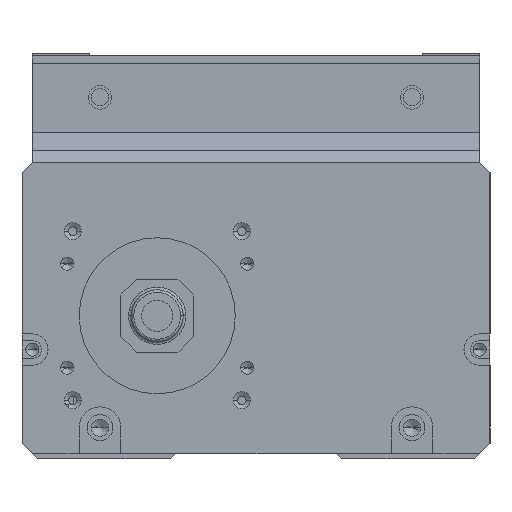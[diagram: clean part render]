
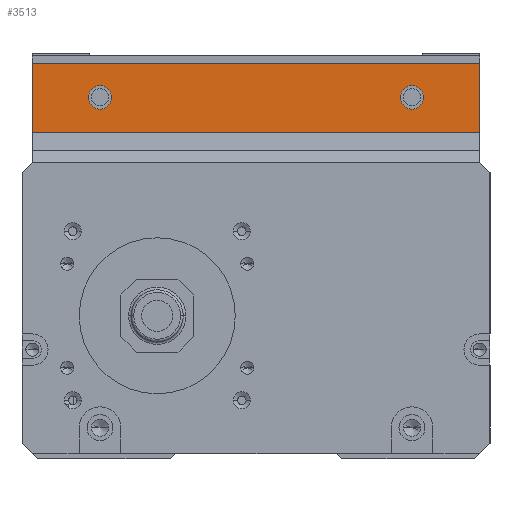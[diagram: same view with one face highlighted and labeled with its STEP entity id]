
A CAD part, front view. The second image highlights one B-rep face of the part: STEP entity #3513.
In plain terms, the highlighted planar face has unit normal (0, -1, 0).
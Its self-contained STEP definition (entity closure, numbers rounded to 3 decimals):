
#110 = CIRCLE ( 'NONE', #9079, 2.25 ) ;
#350 = ORIENTED_EDGE ( 'NONE', *, *, #6158, .T. ) ;
#362 = LINE ( 'NONE', #8211, #5691 ) ;
#431 = ORIENTED_EDGE ( 'NONE', *, *, #5178, .T. ) ;
#491 = EDGE_LOOP ( 'NONE', ( #710, #431, #4839, #1046 ) ) ;
#710 = ORIENTED_EDGE ( 'NONE', *, *, #5832, .F. ) ;
#749 = AXIS2_PLACEMENT_3D ( 'NONE', #13759, #13749, #13693 ) ;
#930 = CIRCLE ( 'NONE', #749, 2.25 ) ;
#1046 = ORIENTED_EDGE ( 'NONE', *, *, #9482, .T. ) ;
#1183 = VECTOR ( 'NONE', #1793, 1000. ) ;
#1359 = VECTOR ( 'NONE', #5754, 1000. ) ;
#1465 = EDGE_CURVE ( 'NONE', #6099, #5730, #930, .T. ) ;
#1704 = CIRCLE ( 'NONE', #15260, 2.25 ) ;
#1793 = DIRECTION ( 'NONE',  ( -1., 0., 0. ) ) ;
#1936 = FACE_BOUND ( 'NONE', #7093, .T. ) ;
#1982 = CARTESIAN_POINT ( 'NONE',  ( 45., 78., -14.788 ) ) ;
#2068 = AXIS2_PLACEMENT_3D ( 'NONE', #14525, #14424, #14328 ) ;
#2792 = CARTESIAN_POINT ( 'NONE',  ( 43., 78., -1.5 ) ) ;
#2970 = DIRECTION ( 'NONE',  ( 0., 0., 1. ) ) ;
#3001 = CARTESIAN_POINT ( 'NONE',  ( 43., 78., -1.5 ) ) ;
#3513 = ADVANCED_FACE ( 'NONE', ( #1936, #7245, #12443 ), #5129, .T. ) ;
#3881 = VERTEX_POINT ( 'NONE', #2792 ) ;
#4839 = ORIENTED_EDGE ( 'NONE', *, *, #13418, .T. ) ;
#4997 = DIRECTION ( 'NONE',  ( 0., 0., -1. ) ) ;
#5010 = ORIENTED_EDGE ( 'NONE', *, *, #1465, .T. ) ;
#5030 = DIRECTION ( 'NONE',  ( 0., -1., 0. ) ) ;
#5075 = LINE ( 'NONE', #3001, #10407 ) ;
#5096 = CARTESIAN_POINT ( 'NONE',  ( 45., 78., -1.5 ) ) ;
#5129 = PLANE ( 'NONE',  #9876 ) ;
#5133 = ORIENTED_EDGE ( 'NONE', *, *, #6888, .T. ) ;
#5178 = EDGE_CURVE ( 'NONE', #9411, #3881, #5075, .T. ) ;
#5691 = VECTOR ( 'NONE', #8180, 1000. ) ;
#5730 = VERTEX_POINT ( 'NONE', #6743 ) ;
#5754 = DIRECTION ( 'NONE',  ( 0., 0., -1. ) ) ;
#5832 = EDGE_CURVE ( 'NONE', #9411, #15244, #11752, .T. ) ;
#5835 = CARTESIAN_POINT ( 'NONE',  ( -43., 78., -1.5 ) ) ;
#6027 = CARTESIAN_POINT ( 'NONE',  ( -43., 78., -1.5 ) ) ;
#6099 = VERTEX_POINT ( 'NONE', #10893 ) ;
#6158 = EDGE_CURVE ( 'NONE', #10216, #11051, #1704, .T. ) ;
#6743 = CARTESIAN_POINT ( 'NONE',  ( -30., 78., -5.75 ) ) ;
#6888 = EDGE_CURVE ( 'NONE', #5730, #6099, #8478, .T. ) ;
#7018 = CARTESIAN_POINT ( 'NONE',  ( 43., 78., -14.788 ) ) ;
#7093 = EDGE_LOOP ( 'NONE', ( #5010, #5133 ) ) ;
#7245 = FACE_BOUND ( 'NONE', #12048, .T. ) ;
#7753 = EDGE_CURVE ( 'NONE', #11051, #10216, #110, .T. ) ;
#7835 = DIRECTION ( 'NONE',  ( 0., 0., -1. ) ) ;
#7939 = DIRECTION ( 'NONE',  ( 0., 1., 0. ) ) ;
#8060 = CARTESIAN_POINT ( 'NONE',  ( 30., 78., -8. ) ) ;
#8180 = DIRECTION ( 'NONE',  ( -1., 0., 0. ) ) ;
#8211 = CARTESIAN_POINT ( 'NONE',  ( 45., 78., -1.5 ) ) ;
#8321 = VERTEX_POINT ( 'NONE', #6027 ) ;
#8478 = CIRCLE ( 'NONE', #2068, 2.25 ) ;
#9079 = AXIS2_PLACEMENT_3D ( 'NONE', #15468, #15568, #12899 ) ;
#9411 = VERTEX_POINT ( 'NONE', #7018 ) ;
#9482 = EDGE_CURVE ( 'NONE', #8321, #15244, #11913, .T. ) ;
#9876 = AXIS2_PLACEMENT_3D ( 'NONE', #5096, #5030, #4997 ) ;
#10216 = VERTEX_POINT ( 'NONE', #10817 ) ;
#10407 = VECTOR ( 'NONE', #2970, 1000. ) ;
#10817 = CARTESIAN_POINT ( 'NONE',  ( 30., 78., -5.75 ) ) ;
#10893 = CARTESIAN_POINT ( 'NONE',  ( -30., 78., -10.25 ) ) ;
#11051 = VERTEX_POINT ( 'NONE', #13825 ) ;
#11548 = CARTESIAN_POINT ( 'NONE',  ( -43., 78., -14.788 ) ) ;
#11752 = LINE ( 'NONE', #1982, #1183 ) ;
#11913 = LINE ( 'NONE', #5835, #1359 ) ;
#12048 = EDGE_LOOP ( 'NONE', ( #12300, #350 ) ) ;
#12300 = ORIENTED_EDGE ( 'NONE', *, *, #7753, .T. ) ;
#12443 = FACE_OUTER_BOUND ( 'NONE', #491, .T. ) ;
#12899 = DIRECTION ( 'NONE',  ( 0., 0., -1. ) ) ;
#13418 = EDGE_CURVE ( 'NONE', #3881, #8321, #362, .T. ) ;
#13693 = DIRECTION ( 'NONE',  ( 0., 0., 1. ) ) ;
#13749 = DIRECTION ( 'NONE',  ( 0., 1., 0. ) ) ;
#13759 = CARTESIAN_POINT ( 'NONE',  ( -30., 78., -8. ) ) ;
#13825 = CARTESIAN_POINT ( 'NONE',  ( 30., 78., -10.25 ) ) ;
#14328 = DIRECTION ( 'NONE',  ( 0., 0., 1. ) ) ;
#14424 = DIRECTION ( 'NONE',  ( 0., 1., 0. ) ) ;
#14525 = CARTESIAN_POINT ( 'NONE',  ( -30., 78., -8. ) ) ;
#15244 = VERTEX_POINT ( 'NONE', #11548 ) ;
#15260 = AXIS2_PLACEMENT_3D ( 'NONE', #8060, #7939, #7835 ) ;
#15468 = CARTESIAN_POINT ( 'NONE',  ( 30., 78., -8. ) ) ;
#15568 = DIRECTION ( 'NONE',  ( 0., 1., 0. ) ) ;
